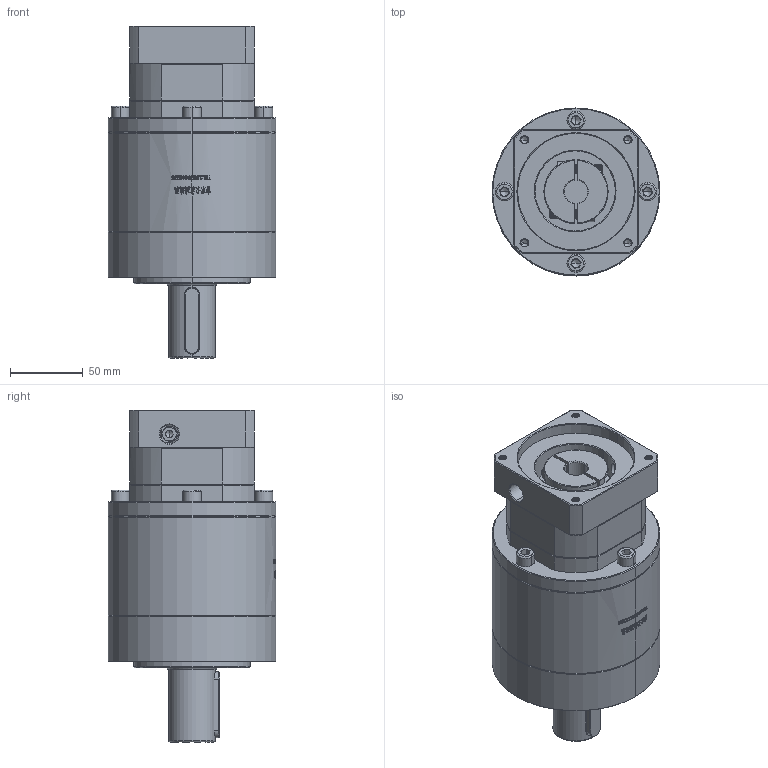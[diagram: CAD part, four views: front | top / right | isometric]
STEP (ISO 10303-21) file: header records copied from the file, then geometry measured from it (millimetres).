
FILE_DESCRIPTION (( 'STEP AP214' ), '1' );
FILE_NAME ('ZE120A-D32-L3-16-80-100-M6.step', '2023-03-13T06:52:07', ( '' ), ( '' ), 'SwSTEP 2.0', 'SolidWorks 2016', '' );
FILE_SCHEMA (( 'AUTOMOTIVE_DESIGN' ));
Length unit declared in the file: millimetre
Products named in the file (1): ZE120A-D32-L3-16-80-100-M6
Bounding box: 115 x 115 x 227.5 mm (x, y, z)
Volume: 1520318.6 mm3; surface area: 133363.3 mm2
Topology: 5 solids, 6 shells, 2020 faces, 5334 edges, 3405 vertices
Faces by surface type: plane 866, cylinder 500, bspline 333, cone 306, torus 15
Entity records: 116861 total; most frequent: CARTESIAN_POINT 49293, ORIENTED_EDGE 10592, DIRECTION 7925, EDGE_CURVE 5296, VERTEX_POINT 3405, LINE 2801, VECTOR 2801, AXIS2_PLACEMENT_3D 2562
